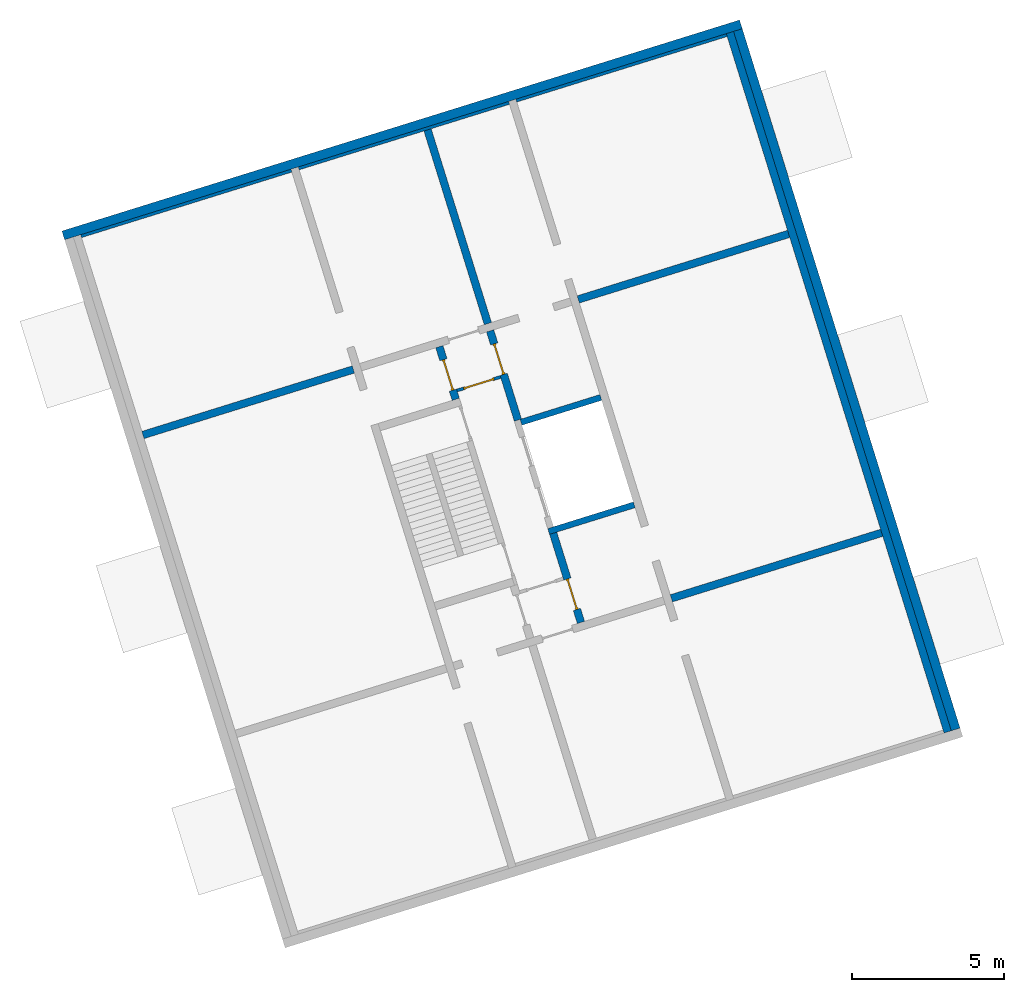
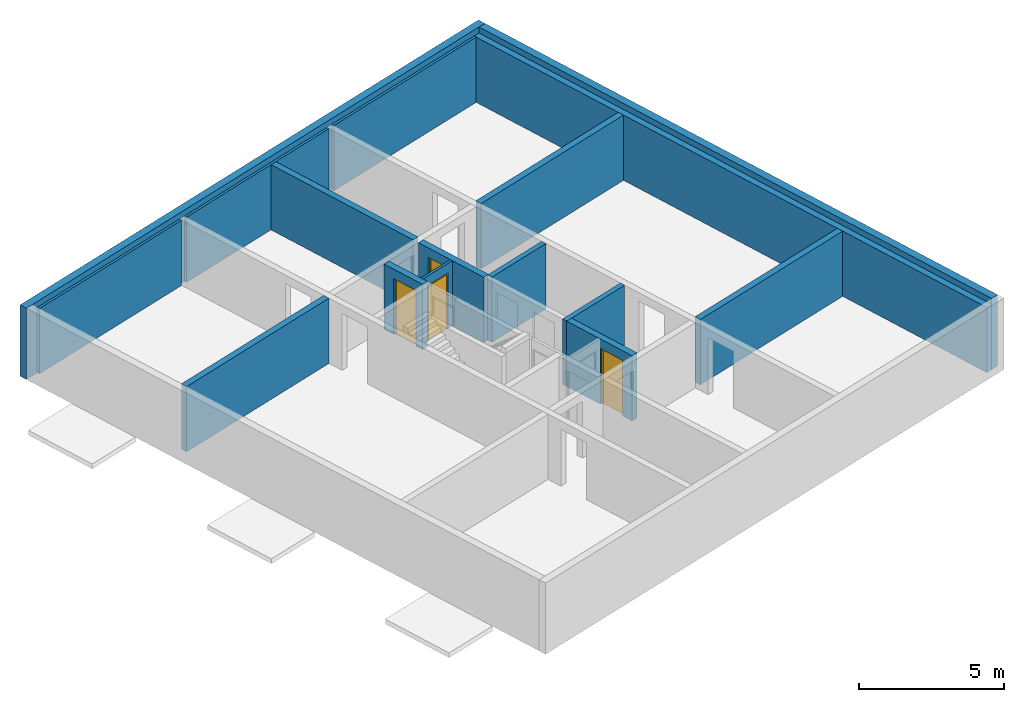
# One storey, part 2 of 4: 16 walls, 4 doors, 4 openings.
"""IFC4 building model written with IfcOpenShell, lengths in metres."""

from ifc_helpers import new_model, entity, si_unit, converted_unit, direction, frame, origin, place, context, subcontext, project, spatial, indexed_curve, outline, extrude, polygons, source, transform, mapped, material, constituent, constituent_set, type_object, type_shapes, element, fill, save


model = new_model("IFC4")

# Units and contexts
model_context = context("Model", 3, precision=1e-05, world=origin(), true_north=direction((6.12323399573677e-17, 1.0)))
body_context = subcontext(model_context, "Body", "Model", "MODEL_VIEW")
ifc_project = project(units=[si_unit("LENGTHUNIT", "METRE"), si_unit("AREAUNIT", "SQUARE_METRE"), si_unit("VOLUMEUNIT", "CUBIC_METRE"), converted_unit("PLANEANGLEUNIT", "DEGREE", entity("IfcPlaneAngleMeasure", 0.0174532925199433), si_unit("PLANEANGLEUNIT", "RADIAN"), dimensions=[0, 0, 0, 0, 0, 0, 0])], contexts=[model_context])

# Site, building, storey
site_placement = place(None, frame((13.1347999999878, 11.9886000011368, 0.0), z_axis=(0.0, 0.0, 1.0), x_axis=(0.954770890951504, 0.297342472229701, 0.0)))
site = spatial("IfcSite", under=ifc_project, at=site_placement, Name="Schiehaven", CompositionType="ELEMENT")
building_placement = place(site_placement, origin())
building = spatial("IfcBuilding", under=site, at=building_placement, Name="VORM huis", CompositionType="ELEMENT")
storey_placement = place(building_placement, frame((0.0, 0.0, 15.9)))
storey = spatial("IfcBuildingStorey", under=building, at=storey_placement, Name="05 vijfde verdieping", CompositionType="ELEMENT", Elevation=15.9)

# Walls
ifc_material_1 = material(Name="beton_gewapend_ihw", Category="Miscellaneous")
wall_type_1 = type_object("IfcWallType", Name="Basic Wall:28_WA_skelet_wand 250mm_gen", PredefinedType="STANDARD")
wall_1_placement = place(storey_placement, frame((80.0, 5.0, 0.0), z_axis=(0.0, 0.0, 1.0), x_axis=(0.0, 1.0, 0.0)))
element("IfcWall", 1, at=wall_1_placement, inside=storey, type_object=wall_type_1, material=ifc_material_1, Name="Constructieve wand", ObjectType="Wand", PredefinedType="NOTDEFINED", context=body_context, shape_type="SweptSolid", body=[
    extrude(outline(indexed_curve([(24.1, 0.125000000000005), (1.84706995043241e-16, 0.125000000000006), (-1.84706995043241e-16, -0.125000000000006), (24.1, -0.125000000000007), (24.1, 0.125000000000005)], self_intersect=False)), origin(), (0.0, 0.0, 1.0), 2.75),
])
ifc_material_2 = material(Name="ntb_ntb_ntb", Category="Miscellaneous")
wall_type_2 = type_object("IfcWallType", Name="Basic Wall:21_WA_gevel_binnenspouwwand 100mm_gen", PredefinedType="STANDARD")
wall_2_placement = place(storey_placement, frame((79.8750000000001, 29.0499999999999, 0.0), z_axis=(0.0, 0.0, 1.0), x_axis=(-1.0, 0.0, 0.0)))
element("IfcWall", 2, at=wall_2_placement, inside=storey, type_object=wall_type_2, material=ifc_material_2, Name="Binnenspouwblad", ObjectType="Wand", PredefinedType="NOTDEFINED", context=body_context, shape_type="SweptSolid", body=[
    extrude(outline(indexed_curve([(7.24999999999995, 0.0500000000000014), (-2.83038752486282e-17, 0.0500000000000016), (2.83038752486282e-17, -0.0500000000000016), (7.24999999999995, -0.0500000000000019), (7.24999999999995, 0.0500000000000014)], self_intersect=False)), origin(), (0.0, 0.0, 1.0), 2.75),
])
wall_3_placement = place(storey_placement, frame((65.1250000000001, 29.0499999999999, 0.0)))
element("IfcWall", 3, at=wall_3_placement, inside=storey, type_object=wall_type_2, material=ifc_material_2, Name="Binnenspouwblad", ObjectType="Wand", PredefinedType="NOTDEFINED", context=body_context, shape_type="SweptSolid", body=[
    extrude(outline(indexed_curve([(7.24999999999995, 0.0500000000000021), (-1.82497125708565e-16, 0.0500000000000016), (1.82497125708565e-16, -0.0500000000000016), (7.24999999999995, -0.0500000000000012), (7.24999999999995, 0.0500000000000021)], self_intersect=False)), origin(), (0.0, 0.0, 1.0), 2.75),
])
wall_4_placement = place(storey_placement, frame((64.8750000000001, 29.0499999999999, 0.0), z_axis=(0.0, 0.0, 1.0), x_axis=(-1.0, 0.0, 0.0)))
element("IfcWall", 4, at=wall_4_placement, inside=storey, type_object=wall_type_2, material=ifc_material_2, Name="Binnenspouwblad", ObjectType="Wand", PredefinedType="NOTDEFINED", context=body_context, shape_type="SweptSolid", body=[
    extrude(outline(indexed_curve([(7.24999999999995, 0.0500000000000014), (-2.83038752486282e-17, 0.0500000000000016), (2.83038752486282e-17, -0.0500000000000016), (7.24999999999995, -0.0500000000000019), (7.24999999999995, 0.0500000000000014)], self_intersect=False)), origin(), (0.0, 0.0, 1.0), 2.75),
])
wall_type_3 = type_object("IfcWallType", Name="Basic Wall: 300mm_gen", PredefinedType="STANDARD")
wall_5_placement = place(storey_placement, frame((80.2750000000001, 5.0, 0.0), z_axis=(0.0, 0.0, 1.0), x_axis=(0.0, 1.0, 0.0)))
element("IfcWall", 5, at=wall_5_placement, inside=storey, type_object=wall_type_3, material=ifc_material_2, Name="Gevelwand", ObjectType="Wand", PredefinedType="NOTDEFINED", context=body_context, shape_type="SweptSolid", body=[
    extrude(outline(indexed_curve([(24.1, 0.150000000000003), (-2.29983128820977e-16, 0.150000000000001), (2.29983128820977e-16, -0.150000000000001), (24.1, -0.149999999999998), (24.1, 0.150000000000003)], self_intersect=False)), origin(), (0.0, 0.0, 1.0), 3.0),
])
wall_6_placement = place(storey_placement, frame((80.4250000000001, 29.2499999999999, 0.0), z_axis=(0.0, 0.0, 1.0), x_axis=(-1.0, 0.0, 0.0)))
element("IfcWall", 6, at=wall_6_placement, inside=storey, type_object=wall_type_3, material=ifc_material_2, Name="Gevelwand", ObjectType="Wand", PredefinedType="NOTDEFINED", context=body_context, shape_type="SweptSolid", body=[
    extrude(outline(indexed_curve([(23.35, 0.150000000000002), (-2.29983128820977e-16, 0.150000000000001), (2.29983128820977e-16, -0.150000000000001), (23.35, -0.149999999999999), (23.35, 0.150000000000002)], self_intersect=False)), origin(), (0.0, 0.0, 1.0), 3.0),
])
ifc_material_3 = material(Name="beton_gewapend_prefab-element", Category="Miscellaneous")
wall_type_4 = type_object("IfcWallType", Name="Basic Wall:28_WA_skelet_wand 200mm_gen", PredefinedType="STANDARD")
wall_7_placement = place(storey_placement, frame((72.3750000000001, 15.1999999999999, 0.0), z_axis=(0.0, 0.0, 1.0), x_axis=(-1.0, 0.0, 0.0)))
element("IfcWall", 7, at=wall_7_placement, inside=storey, type_object=wall_type_4, material=ifc_material_3, Name="Constructieve wand", ObjectType="Wand", PredefinedType="NOTDEFINED", context=body_context, shape_type="SweptSolid", body=[
    extrude(outline(indexed_curve([(2.95000000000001, 0.0999999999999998), (-2.97399835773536e-17, 0.0999999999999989), (2.97399835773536e-17, -0.0999999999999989), (2.95000000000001, -0.099999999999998), (2.95000000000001, 0.0999999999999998)], self_intersect=False)), origin(), (0.0, 0.0, 1.0), 2.75),
])
wall_8_placement = place(storey_placement, frame((69.6250000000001, 18.8999999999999, 0.0)))
element("IfcWall", 8, at=wall_8_placement, inside=storey, type_object=wall_type_4, material=ifc_material_3, Name="Constructieve wand", ObjectType="Wand", PredefinedType="NOTDEFINED", context=body_context, shape_type="SweptSolid", body=[
    extrude(outline(indexed_curve([(2.75, 0.0999999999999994), (-1.75746575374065e-16, 0.100000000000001), (1.75746575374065e-16, -0.100000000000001), (2.75, -0.100000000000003), (2.75, 0.0999999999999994)], self_intersect=False)), origin(), (0.0, 0.0, 1.0), 2.75),
])

# Wall, opening, door
wall_type_5 = type_object("IfcWallType", Name="Basic Wall:22_WA_afbouw_binnenwand 250mm_gen", PredefinedType="STANDARD")
wall_9_placement = place(storey_placement, frame((67.8000000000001, 20.2599999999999, 0.0), z_axis=(0.0, 0.0, 1.0), x_axis=(0.0, 1.0, 0.0)))
wall_9 = element("IfcWall", 9, at=wall_9_placement, inside=storey, type_object=wall_type_5, material=ifc_material_2, Name="Binnenwand", ObjectType="Wand", PredefinedType="NOTDEFINED", context=body_context, shape_type="Tessellation", body=[
    polygons([(0.0, -0.124999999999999, -2.16573425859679e-15), (0.215000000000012, -0.125000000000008, -2.16573425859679e-15), (0.315000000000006, -0.124999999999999, -2.16573425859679e-15), (0.315000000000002, -0.124999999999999, 2.34999999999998), (1.36500000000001, -0.125000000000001, 2.34999999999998), (1.36500000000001, -0.125000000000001, -2.16573425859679e-15), (1.81499999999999, -0.125000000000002, -2.16573425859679e-15), (1.81499999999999, -0.125000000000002, 2.75), (0.315000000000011, -0.125000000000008, 2.75), (0.215000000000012, -0.125000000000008, 2.75), (0.0, -0.124999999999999, 2.75), (0.315000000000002, 0.124999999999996, 2.34999999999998), (0.315000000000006, 0.124999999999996, -2.16573425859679e-15), (0.0, 0.124999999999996, -2.16573425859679e-15), (0.0, 0.124999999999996, 2.75), (1.81499999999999, 0.124999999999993, 2.75), (1.81499999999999, 0.124999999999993, -2.16573425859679e-15), (1.36500000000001, 0.124999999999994, -2.16573425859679e-15), (1.36500000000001, 0.124999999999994, 2.34999999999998)], [[[1, 2, 3, 4, 5, 6, 7, 8, 9, 10, 11]], [[12, 13, 14, 15, 16, 17, 18, 19]], [[14, 13, 3, 2, 1]], [[8, 7, 17, 16]], [[11, 10, 9, 8, 16, 15]], [[1, 11, 15, 14]], [[6, 5, 19, 18]], [[4, 3, 13, 12]], [[5, 4, 12, 19]], [[18, 17, 7, 6]]], closed=True),
])
opening_1_placement = place(wall_9_placement, frame((1.36500000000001, 0.124999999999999, 0.0)))
opening_1 = element("IfcOpeningElement", 10, at=opening_1_placement, cuts=wall_9, Name="Woningtoegangsdeur", PredefinedType="OPENING", context=body_context, shape_type="SweptSolid", body=[
    extrude(outline(indexed_curve([(2.34999999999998, 3.29504974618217e-30), (2.34999999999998, 1.05), (0.0, 1.05), (0.0, 3.29504974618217e-30), (2.34999999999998, 3.29504974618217e-30)], self_intersect=False)), frame((0.0, 0.0, 0.0), z_axis=(0.0, -1.0, 0.0), x_axis=(0.0, 0.0, 1.0)), (0.0, 0.0, 1.0), 0.25),
])
ifc_material_4 = material(Name="PD_a_binnenwandopeningen", Category="Miscellaneous")
ifc_constituent_1 = constituent(ifc_material_4, Name="PD_a_binnenwandopeningen", Category="Miscellaneous")
ifc_material_5 = material(Name="metaal_aluminium_ntb", Category="Miscellaneous")
ifc_constituent_2 = constituent(ifc_material_5, Name="metaal_aluminium_ntb", Category="Miscellaneous")
ifc_constituent_set_1 = constituent_set(constituents=[ifc_constituent_1, ifc_constituent_2])
ifc_constituent_3 = constituent(ifc_material_4, Name="PD_a_binnenwandopeningen", Category="Miscellaneous")
ifc_constituent_4 = constituent(ifc_material_5, Name="Panel", Category="Miscellaneous")
ifc_constituent_set_2 = constituent_set(constituents=[ifc_constituent_3, ifc_constituent_4])
door_type_1 = type_object("IfcDoorType", Name="32_DO_binnendeur enkel:woningtoegangsdeur", OperationType="REVOLVING", PredefinedType="DOOR", material=ifc_constituent_set_2)
shared_shape_1 = source(origin(), body_context, "Body", "SweptSolid", [
    extrude(outline(indexed_curve([(0.475, -1.16249999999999), (0.525000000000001, -1.16249999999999), (0.525000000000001, 1.18749999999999), (-0.525000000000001, 1.18749999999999), (-0.525000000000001, -1.16249999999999), (-0.475, -1.16249999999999), (-0.475, 1.13749999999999), (0.475, 1.13749999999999), (0.475, -1.16249999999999)], self_intersect=False)), frame((0.525000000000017, 0.174999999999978, 1.16249999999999), z_axis=(0.0, -1.0, 0.0), x_axis=(1.0, 0.0, 0.0)), (0.0, 0.0, 1.0), 0.1),
    extrude(outline(indexed_curve([(-0.475, -0.025), (0.475, -0.025), (0.475, 0.025), (-0.475, 0.025), (-0.475, -0.025)], self_intersect=False)), frame((0.525000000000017, 0.12499999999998, 0.0)), (0.0, 0.0, 1.0), 2.29999999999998),
])
type_shapes(door_type_1, [shared_shape_1])
door_1_placement = place(opening_1_placement, frame((0.0, 0.0, 0.0), z_axis=(0.0, 0.0, 1.0), x_axis=(-1.0, 0.0, 0.0)))
door_1 = element("IfcDoor", 11, at=door_1_placement, inside=storey, type_object=door_type_1, material=ifc_constituent_set_1, Name="Woningtoegangsdeur", ObjectType="Deur", OperationType="REVOLVING", OverallHeight=2.34999999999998, OverallWidth=1.05, PredefinedType="DOOR", context=body_context, shape_type="MappedRepresentation", body=[
    mapped(shared_shape_1, transform((0.0, 0.0, 0.0), scale=1.0)),
])
fill(opening_1, door_1)

wall_10_placement = place(storey_placement, frame((69.5500000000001, 19.0, 0.0), z_axis=(0.0, 0.0, 1.0), x_axis=(0.0, 1.0, 0.0)))
wall_10 = element("IfcWall", 12, at=wall_10_placement, inside=storey, type_object=wall_type_5, material=ifc_material_2, Name="Binnenwand", ObjectType="Wand", PredefinedType="NOTDEFINED", context=body_context, shape_type="Tessellation", body=[
    polygons([(2.62500000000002, -0.125000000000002, 2.34999999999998), (2.62500000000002, -0.125000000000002, -2.16573425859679e-15), (3.07499999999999, -0.125000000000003, -2.16573425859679e-15), (3.07499999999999, -0.125000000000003, 2.75), (2.16573425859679e-15, -0.125000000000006, 2.75), (2.16573425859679e-15, -0.125000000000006, -2.16573425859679e-15), (1.57500000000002, -0.125, -2.16573425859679e-15), (1.57500000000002, -0.125, 2.34999999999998), (3.075, 0.125000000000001, -2.16573425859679e-15), (2.62500000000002, 0.125000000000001, -2.16573425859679e-15), (2.62500000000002, 0.125000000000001, 2.34999999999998), (1.57500000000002, 0.125000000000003, 2.34999999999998), (1.57500000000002, 0.125000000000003, -2.16573425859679e-15), (1.475, 0.125000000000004, -2.16573425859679e-15), (4.33146851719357e-15, 0.125000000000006, -2.16573425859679e-15), (4.33146851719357e-15, 0.125000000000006, 2.75), (1.475, 0.125000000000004, 2.75), (1.575, 0.125000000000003, 2.75), (3.075, 0.125000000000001, 2.75)], [[[1, 2, 3, 4, 5, 6, 7, 8]], [[9, 10, 11, 12, 13, 14, 15, 16, 17, 18, 19]], [[7, 6, 15, 14, 13]], [[4, 3, 9, 19]], [[5, 4, 19, 18, 17, 16]], [[6, 5, 16, 15]], [[13, 12, 8, 7]], [[11, 10, 2, 1]], [[12, 11, 1, 8]], [[3, 2, 10, 9]]], closed=True),
])
opening_2_placement = place(wall_10_placement, frame((1.57499999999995, -0.124999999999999, 0.0)))
opening_2 = element("IfcOpeningElement", 13, at=opening_2_placement, cuts=wall_10, Name="Woningtoegangsdeur", PredefinedType="OPENING", context=body_context, shape_type="SweptSolid", body=[
    extrude(outline(indexed_curve([(2.34999999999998, 3.4855615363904e-30), (2.34999999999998, 1.05), (0.0, 1.05), (0.0, 3.4855615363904e-30), (2.34999999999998, 3.4855615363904e-30)], self_intersect=False)), frame((0.0, 0.0, 0.0), z_axis=(0.0, 1.0, 0.0), x_axis=(0.0, 0.0, 1.0)), (0.0, 0.0, 1.0), 0.25),
])
ifc_constituent_5 = constituent(ifc_material_4, Name="PD_a_binnenwandopeningen", Category="Miscellaneous")
ifc_constituent_6 = constituent(ifc_material_5, Name="metaal_aluminium_ntb", Category="Miscellaneous")
ifc_constituent_set_3 = constituent_set(constituents=[ifc_constituent_5, ifc_constituent_6])
door_2_placement = place(opening_2_placement, origin())
door_2 = element("IfcDoor", 14, at=door_2_placement, inside=storey, type_object=door_type_1, material=ifc_constituent_set_3, Name="Woningtoegangsdeur", ObjectType="Deur", OperationType="REVOLVING", OverallHeight=2.34999999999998, OverallWidth=1.05, PredefinedType="DOOR", context=body_context, shape_type="MappedRepresentation", body=[
    mapped(shared_shape_1, transform((0.0, 0.0, 0.0), scale=1.0)),
])
fill(opening_2, door_2)

# Walls
wall_11_placement = place(storey_placement, frame((72.6250000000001, 22.1999999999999, 0.0)))
element("IfcWall", 15, at=wall_11_placement, inside=storey, type_object=wall_type_5, material=ifc_material_2, Name="Binnenwand", ObjectType="Wand", PredefinedType="NOTDEFINED", context=body_context, shape_type="SweptSolid", body=[
    extrude(outline(indexed_curve([(7.24999999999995, 0.125000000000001), (2.00742282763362e-17, 0.125000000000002), (-2.00742282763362e-17, -0.125000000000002), (7.24999999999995, -0.125000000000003), (7.24999999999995, 0.125000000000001)], self_intersect=False)), origin(), (0.0, 0.0, 1.0), 2.75),
])
wall_12_placement = place(storey_placement, frame((69.5500000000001, 22.3249999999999, 0.0), z_axis=(0.0, 0.0, 1.0), x_axis=(0.0, 1.0, 0.0)))
element("IfcWall", 16, at=wall_12_placement, inside=storey, type_object=wall_type_5, material=ifc_material_2, Name="Binnenwand", ObjectType="Wand", PredefinedType="NOTDEFINED", context=body_context, shape_type="SweptSolid", body=[
    extrude(outline(indexed_curve([(6.67500000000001, 0.124999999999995), (2.13043668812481e-16, 0.124999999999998), (-2.13043668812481e-16, -0.124999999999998), (6.67500000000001, -0.125), (6.67500000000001, 0.124999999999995)], self_intersect=False)), origin(), (0.0, 0.0, 1.0), 2.75),
])
wall_13_placement = place(storey_placement, frame((64.8750000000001, 22.1999999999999, 0.0), z_axis=(0.0, 0.0, 1.0), x_axis=(-1.0, 0.0, 0.0)))
element("IfcWall", 17, at=wall_13_placement, inside=storey, type_object=wall_type_5, material=ifc_material_2, Name="Binnenwand", ObjectType="Wand", PredefinedType="NOTDEFINED", context=body_context, shape_type="SweptSolid", body=[
    extrude(outline(indexed_curve([(7.24999999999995, 0.125000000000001), (-2.84367080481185e-16, 0.125000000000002), (2.84367080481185e-16, -0.125000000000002), (7.24999999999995, -0.125000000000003), (7.24999999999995, 0.125000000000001)], self_intersect=False)), origin(), (0.0, 0.0, 1.0), 2.75),
])
wall_14_placement = place(storey_placement, frame((72.6250000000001, 11.8999999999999, 0.0)))
element("IfcWall", 18, at=wall_14_placement, inside=storey, type_object=wall_type_5, material=ifc_material_2, Name="Binnenwand", ObjectType="Wand", PredefinedType="NOTDEFINED", context=body_context, shape_type="SweptSolid", body=[
    extrude(outline(indexed_curve([(7.24999999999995, 0.125000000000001), (-2.79648850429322e-16, 0.125), (2.79648850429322e-16, -0.125), (7.24999999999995, -0.124999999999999), (7.24999999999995, 0.125000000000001)], self_intersect=False)), origin(), (0.0, 0.0, 1.0), 2.75),
])

# Wall, opening, door
wall_15_placement = place(storey_placement, frame((69.5500000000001, 15.0999999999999, 0.0), z_axis=(0.0, 0.0, 1.0), x_axis=(0.0, -1.0, 0.0)))
wall_15 = element("IfcWall", 19, at=wall_15_placement, inside=storey, type_object=wall_type_5, material=ifc_material_2, Name="Binnenwand", ObjectType="Wand", PredefinedType="NOTDEFINED", context=body_context, shape_type="Tessellation", body=[
    polygons([(2.62500000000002, -0.125000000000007, 2.34999999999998), (2.62500000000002, -0.125000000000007, -2.16573425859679e-15), (3.07499999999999, -0.125000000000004, -2.16573425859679e-15), (3.07499999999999, -0.125000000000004, 2.75), (1.575, -0.125000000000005, 2.75), (1.475, -0.125000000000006, 2.75), (0.0, -0.125000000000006, 2.75), (0.0, -0.125000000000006, -2.16573425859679e-15), (1.475, -0.125000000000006, -2.16573425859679e-15), (1.57500000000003, -0.125000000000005, -2.16573425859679e-15), (1.57500000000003, -0.125000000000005, 2.34999999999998), (3.075, 0.124999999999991, -2.16573425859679e-15), (2.62500000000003, 0.124999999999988, -2.16573425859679e-15), (2.62500000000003, 0.124999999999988, 2.34999999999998), (1.57500000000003, 0.124999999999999, 2.34999999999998), (1.57500000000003, 0.124999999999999, -2.16573425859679e-15), (2.16573425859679e-15, 0.124999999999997, -2.16573425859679e-15), (2.16573425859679e-15, 0.124999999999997, 2.75), (3.075, 0.124999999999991, 2.75)], [[[1, 2, 3, 4, 5, 6, 7, 8, 9, 10, 11]], [[12, 13, 14, 15, 16, 17, 18, 19]], [[10, 9, 8, 17, 16]], [[4, 3, 12, 19]], [[7, 6, 5, 4, 19, 18]], [[8, 7, 18, 17]], [[16, 15, 11, 10]], [[14, 13, 2, 1]], [[15, 14, 1, 11]], [[3, 2, 13, 12]]], closed=True),
])
opening_3_placement = place(wall_15_placement, frame((2.62500000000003, 0.124999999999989, 0.0)))
opening_3 = element("IfcOpeningElement", 20, at=opening_3_placement, cuts=wall_15, Name="Woningtoegangsdeur", PredefinedType="OPENING", context=body_context, shape_type="SweptSolid", body=[
    extrude(outline(indexed_curve([(2.34999999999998, 1.05), (0.0, 1.05), (0.0, 1.08286712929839e-15), (2.34999999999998, 1.08286712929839e-15), (2.34999999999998, 1.05)], self_intersect=False)), frame((0.0, 0.0, 0.0), z_axis=(0.0, -1.0, 0.0), x_axis=(0.0, 0.0, 1.0)), (0.0, 0.0, 1.0), 0.25),
])
ifc_constituent_7 = constituent(ifc_material_4, Name="PD_a_binnenwandopeningen", Category="Miscellaneous")
ifc_constituent_8 = constituent(ifc_material_5, Name="metaal_aluminium_ntb", Category="Miscellaneous")
ifc_constituent_set_4 = constituent_set(constituents=[ifc_constituent_7, ifc_constituent_8])
ifc_constituent_9 = constituent(ifc_material_4, Name="PD_a_binnenwandopeningen", Category="Miscellaneous")
ifc_constituent_10 = constituent(ifc_material_5, Name="Panel", Category="Miscellaneous")
ifc_constituent_set_5 = constituent_set(constituents=[ifc_constituent_9, ifc_constituent_10])
door_type_2 = type_object("IfcDoorType", Name="32_DO_binnendeur enkel:woningtoegangsdeur", OperationType="REVOLVING", PredefinedType="DOOR", material=ifc_constituent_set_5)
shared_shape_2 = source(origin(), body_context, "Body", "SweptSolid", [
    extrude(outline(indexed_curve([(-1.16249999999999, -0.525000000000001), (1.18749999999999, -0.525), (1.18749999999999, 0.525000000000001), (-1.16249999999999, 0.525000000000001), (-1.16249999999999, 0.475), (1.13749999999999, 0.475), (1.13749999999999, -0.475), (-1.16249999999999, -0.475), (-1.16249999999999, -0.525000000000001)], self_intersect=False)), frame((0.525000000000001, 0.0749999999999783, 1.16249999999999), z_axis=(0.0, 1.0, 0.0), x_axis=(0.0, 0.0, 1.0)), (0.0, 0.0, 1.0), 0.1),
    extrude(outline(indexed_curve([(-0.025, -0.475), (0.025, -0.475), (0.025, 0.475), (-0.025, 0.475), (-0.025, -0.475)], self_intersect=False)), frame((0.525000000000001, 0.12499999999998, 0.0), z_axis=(0.0, 0.0, 1.0), x_axis=(0.0, 1.0, 0.0)), (0.0, 0.0, 1.0), 2.29999999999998),
])
type_shapes(door_type_2, [shared_shape_2])
door_3_placement = place(opening_3_placement, frame((0.0, 0.0, 0.0), z_axis=(0.0, 0.0, 1.0), x_axis=(-1.0, 0.0, 0.0)))
door_3 = element("IfcDoor", 21, at=door_3_placement, inside=storey, type_object=door_type_2, material=ifc_constituent_set_4, Name="Woningtoegangsdeur", ObjectType="Deur", OperationType="REVOLVING", OverallHeight=2.34999999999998, OverallWidth=1.05, PredefinedType="DOOR", context=body_context, shape_type="MappedRepresentation", body=[
    mapped(shared_shape_2, transform((0.0, 0.0, 0.0), scale=1.0)),
])
fill(opening_3, door_3)

wall_type_6 = type_object("IfcWallType", Name="Basic Wall:22_WA_afbouw_binnenwand 100mm_gen", PredefinedType="STANDARD")
wall_16_placement = place(storey_placement, frame((67.9250000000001, 20.5249999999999, 0.0)))
wall_16 = element("IfcWall", 22, at=wall_16_placement, inside=storey, type_object=wall_type_6, material=ifc_material_2, Name="Binnenwand", ObjectType="Wand", PredefinedType="NOTDEFINED", context=body_context, shape_type="Tessellation", body=[
    polygons([(1.49999999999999, -0.0499999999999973, 2.75), (-1.22207551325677e-14, -0.0499999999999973, 2.75), (-1.22207551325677e-14, -0.0499999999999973, -2.16573425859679e-15), (0.22499999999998, -0.0500000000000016, -2.16573425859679e-15), (0.22499999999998, -0.0500000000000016, 2.34999999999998), (1.27499999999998, -0.0500000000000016, 2.34999999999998), (1.27499999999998, -0.0500000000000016, -2.16573425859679e-15), (1.49999999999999, -0.0499999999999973, -2.16573425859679e-15), (-1.26612298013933e-14, 0.0500000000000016, 2.75), (1.49999999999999, 0.0500000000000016, 2.75), (1.49999999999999, 0.0500000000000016, 2.34999999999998), (1.49999999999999, 0.0500000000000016, -2.16573425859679e-15), (1.27499999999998, 0.0499999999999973, -2.16573425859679e-15), (1.27499999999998, 0.0499999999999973, 2.34999999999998), (0.22499999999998, 0.0499999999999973, 2.34999999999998), (0.22499999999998, 0.0499999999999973, -2.16573425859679e-15), (-1.26612298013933e-14, 0.0500000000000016, -2.16573425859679e-15), (-3.99829276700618e-15, 0.0500000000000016, 2.34999999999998)], [[[1, 2, 3, 4, 5, 6, 7, 8]], [[9, 10, 11, 12, 13, 14, 15, 16, 17, 18]], [[3, 17, 16, 4]], [[2, 1, 10, 9]], [[15, 5, 4, 16]], [[5, 15, 14, 6]], [[6, 14, 13, 7]], [[3, 2, 9, 18, 17]], [[1, 8, 12, 11, 10]], [[12, 8, 7, 13]]], closed=True),
])
opening_4_placement = place(wall_16_placement, frame((1.275, 0.049999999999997, 0.0)))
opening_4 = element("IfcOpeningElement", 23, at=opening_4_placement, cuts=wall_16, Name="Vluchtdeur", PredefinedType="OPENING", context=body_context, shape_type="SweptSolid", body=[
    extrude(outline(indexed_curve([(2.34999999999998, -1.7774791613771e-29), (2.34999999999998, 1.05), (0.0, 1.05), (0.0, -1.7774791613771e-29), (2.34999999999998, -1.7774791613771e-29)], self_intersect=False)), frame((0.0, 0.0, 0.0), z_axis=(0.0, -1.0, 0.0), x_axis=(0.0, 0.0, 1.0)), (0.0, 0.0, 1.0), 0.1),
])
ifc_constituent_11 = constituent(ifc_material_4, Name="PD_a_binnenwandopeningen", Category="Miscellaneous")
ifc_constituent_12 = constituent(ifc_material_5, Name="metaal_aluminium_ntb", Category="Miscellaneous")
ifc_constituent_set_6 = constituent_set(constituents=[ifc_constituent_11, ifc_constituent_12])
ifc_constituent_13 = constituent(ifc_material_4, Name="PD_a_binnenwandopeningen", Category="Miscellaneous")
ifc_constituent_14 = constituent(ifc_material_5, Name="Panel", Category="Miscellaneous")
ifc_constituent_set_7 = constituent_set(constituents=[ifc_constituent_13, ifc_constituent_14])
door_type_3 = type_object("IfcDoorType", Name="32_DO_binnendeur enkel:binnendeur zelfsluitend 30min", OperationType="NOTDEFINED", PredefinedType="DOOR", material=ifc_constituent_set_7)
shared_shape_3 = source(origin(), body_context, "Body", "SweptSolid", [
    extrude(outline(indexed_curve([(0.475, -1.16249999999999), (0.525, -1.16249999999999), (0.525, 1.18749999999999), (-0.525, 1.18749999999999), (-0.525, -1.16249999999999), (-0.475, -1.16249999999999), (-0.475, 1.13749999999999), (0.475, 1.13749999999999), (0.475, -1.16249999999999)], self_intersect=False)), frame((0.525000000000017, 0.100000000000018, 1.16249999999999), z_axis=(0.0, -1.0, 0.0), x_axis=(1.0, 0.0, 0.0)), (0.0, 0.0, 1.0), 0.1),
    extrude(outline(indexed_curve([(-0.475, -0.025), (0.475, -0.025), (0.475, 0.025), (-0.475, 0.025), (-0.475, -0.025)], self_intersect=False)), frame((0.525000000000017, 0.0499999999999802, 0.0)), (0.0, 0.0, 1.0), 2.29999999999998),
])
type_shapes(door_type_3, [shared_shape_3])
door_4_placement = place(opening_4_placement, frame((0.0, 0.0, 0.0), z_axis=(0.0, 0.0, 1.0), x_axis=(-1.0, 0.0, 0.0)))
door_4 = element("IfcDoor", 24, at=door_4_placement, inside=storey, type_object=door_type_3, material=ifc_constituent_set_6, Name="Vluchtdeur", ObjectType="Deur", OperationType="NOTDEFINED", OverallHeight=2.34999999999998, OverallWidth=1.05, PredefinedType="DOOR", context=body_context, shape_type="MappedRepresentation", body=[
    mapped(shared_shape_3, transform((0.0, 0.0, 0.0), scale=1.0)),
])
fill(opening_4, door_4)

save(model, "model.ifc")
